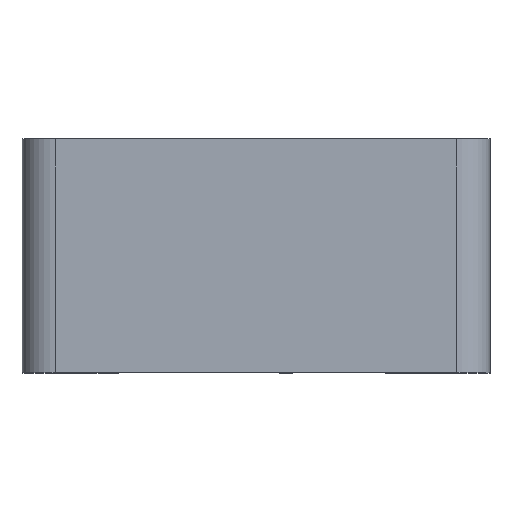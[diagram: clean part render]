
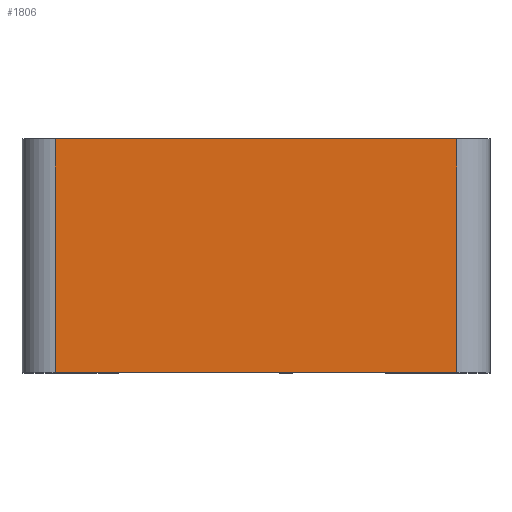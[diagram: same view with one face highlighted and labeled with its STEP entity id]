
A CAD part, top view. The second image highlights one B-rep face of the part: STEP entity #1806.
In plain terms, the highlighted planar face has unit normal (0, 0, 1).
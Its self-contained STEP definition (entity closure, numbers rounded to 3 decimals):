
#240=FACE_OUTER_BOUND('',#355,.T.);
#355=EDGE_LOOP('',(#1626,#1627,#1628,#1629));
#524=LINE('',#3235,#702);
#529=LINE('',#3251,#707);
#535=LINE('',#3269,#713);
#539=LINE('',#3276,#717);
#702=VECTOR('',#2192,10.);
#707=VECTOR('',#2207,10.);
#713=VECTOR('',#2225,10.);
#717=VECTOR('',#2235,10.);
#876=VERTEX_POINT('',#3232);
#877=VERTEX_POINT('',#3234);
#882=VERTEX_POINT('',#3248);
#883=VERTEX_POINT('',#3250);
#1120=EDGE_CURVE('',#876,#877,#524,.T.);
#1128=EDGE_CURVE('',#883,#882,#529,.T.);
#1138=EDGE_CURVE('',#877,#882,#535,.T.);
#1142=EDGE_CURVE('',#883,#876,#539,.T.);
#1626=ORIENTED_EDGE('',*,*,#1138,.F.);
#1627=ORIENTED_EDGE('',*,*,#1120,.F.);
#1628=ORIENTED_EDGE('',*,*,#1142,.F.);
#1629=ORIENTED_EDGE('',*,*,#1128,.T.);
#1709=PLANE('',#1893);
#1806=ADVANCED_FACE('',(#240),#1709,.T.);
#1893=AXIS2_PLACEMENT_3D('',#3277,#2236,#2237);
#2192=DIRECTION('',(1.,0.,0.));
#2207=DIRECTION('',(1.,0.,0.));
#2225=DIRECTION('',(0.,-1.,0.));
#2235=DIRECTION('',(0.,1.,0.));
#2236=DIRECTION('center_axis',(0.,0.,1.));
#2237=DIRECTION('ref_axis',(1.,0.,0.));
#3232=CARTESIAN_POINT('',(2.5,17.5,0.));
#3234=CARTESIAN_POINT('',(32.5,17.5,0.));
#3235=CARTESIAN_POINT('',(0.,17.5,0.));
#3248=CARTESIAN_POINT('',(32.5,0.,0.));
#3250=CARTESIAN_POINT('',(2.5,0.,0.));
#3251=CARTESIAN_POINT('',(0.,0.,0.));
#3269=CARTESIAN_POINT('',(32.5,0.,0.));
#3276=CARTESIAN_POINT('',(2.5,0.,0.));
#3277=CARTESIAN_POINT('Origin',(0.,0.,0.));
